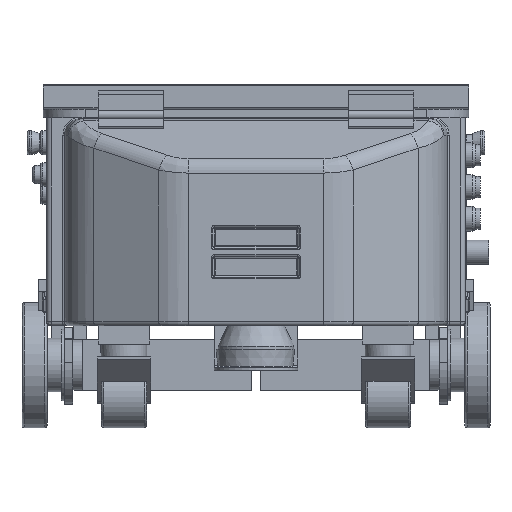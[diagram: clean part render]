
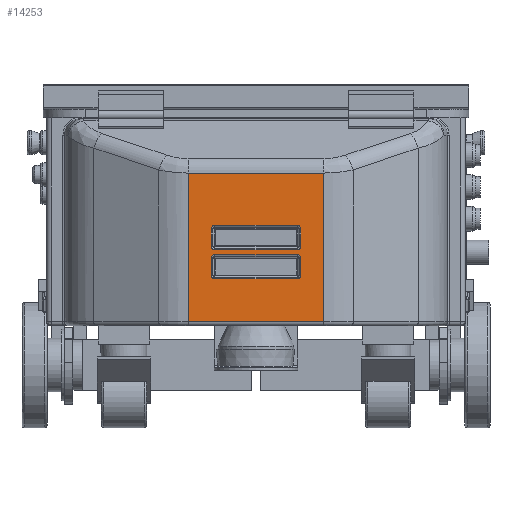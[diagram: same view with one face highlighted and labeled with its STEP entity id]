
A CAD part, front view. The second image highlights one B-rep face of the part: STEP entity #14253.
In plain terms, the highlighted planar face has unit normal (0, -1, 0).
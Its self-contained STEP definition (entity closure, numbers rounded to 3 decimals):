
#717=CIRCLE('',#15395,4.);
#729=CIRCLE('',#15410,4.);
#733=CIRCLE('',#15416,4.);
#740=CIRCLE('',#15425,4.);
#742=CIRCLE('',#15440,4.);
#743=CIRCLE('',#15441,4.);
#744=CIRCLE('',#15442,4.);
#745=CIRCLE('',#15443,4.);
#1070=FACE_BOUND('',#2782,.T.);
#1071=FACE_BOUND('',#2783,.T.);
#1822=FACE_OUTER_BOUND('',#2781,.T.);
#2781=EDGE_LOOP('',(#11610,#11611,#11612,#11613));
#2782=EDGE_LOOP('',(#11614,#11615,#11616,#11617,#11618,#11619,#11620,#11621));
#2783=EDGE_LOOP('',(#11622,#11623,#11624,#11625,#11626,#11627,#11628,#11629));
#4076=LINE('',#23343,#5337);
#4078=LINE('',#23371,#5339);
#4080=LINE('',#23374,#5341);
#4088=LINE('',#23386,#5349);
#4100=LINE('',#23407,#5361);
#4101=LINE('',#23409,#5362);
#4102=LINE('',#23411,#5363);
#4103=LINE('',#23412,#5364);
#4104=LINE('',#23417,#5365);
#4105=LINE('',#23421,#5366);
#4106=LINE('',#23425,#5367);
#4107=LINE('',#23428,#5368);
#5337=VECTOR('',#18749,10.);
#5339=VECTOR('',#18781,10.);
#5341=VECTOR('',#18785,10.);
#5349=VECTOR('',#18801,10.);
#5361=VECTOR('',#18827,10.);
#5362=VECTOR('',#18828,10.);
#5363=VECTOR('',#18829,10.);
#5364=VECTOR('',#18830,10.);
#5365=VECTOR('',#18833,10.);
#5366=VECTOR('',#18836,10.);
#5367=VECTOR('',#18839,10.);
#5368=VECTOR('',#18842,10.);
#6568=VERTEX_POINT('',#23311);
#6569=VERTEX_POINT('',#23312);
#6580=VERTEX_POINT('',#23337);
#6581=VERTEX_POINT('',#23339);
#6584=VERTEX_POINT('',#23349);
#6585=VERTEX_POINT('',#23351);
#6591=VERTEX_POINT('',#23365);
#6592=VERTEX_POINT('',#23367);
#6593=VERTEX_POINT('',#23405);
#6594=VERTEX_POINT('',#23406);
#6595=VERTEX_POINT('',#23408);
#6596=VERTEX_POINT('',#23410);
#6597=VERTEX_POINT('',#23413);
#6598=VERTEX_POINT('',#23414);
#6599=VERTEX_POINT('',#23416);
#6600=VERTEX_POINT('',#23418);
#6601=VERTEX_POINT('',#23420);
#6602=VERTEX_POINT('',#23422);
#6603=VERTEX_POINT('',#23424);
#6604=VERTEX_POINT('',#23426);
#8286=EDGE_CURVE('',#6568,#6569,#717,.T.);
#8298=EDGE_CURVE('',#6580,#6581,#729,.T.);
#8300=EDGE_CURVE('',#6569,#6580,#4076,.T.);
#8304=EDGE_CURVE('',#6584,#6585,#733,.T.);
#8311=EDGE_CURVE('',#6591,#6592,#740,.T.);
#8313=EDGE_CURVE('',#6581,#6591,#4078,.T.);
#8315=EDGE_CURVE('',#6592,#6584,#4080,.T.);
#8323=EDGE_CURVE('',#6585,#6568,#4088,.T.);
#8335=EDGE_CURVE('',#6593,#6594,#4100,.T.);
#8336=EDGE_CURVE('',#6595,#6593,#4101,.T.);
#8337=EDGE_CURVE('',#6596,#6595,#4102,.T.);
#8338=EDGE_CURVE('',#6594,#6596,#4103,.T.);
#8339=EDGE_CURVE('',#6597,#6598,#742,.T.);
#8340=EDGE_CURVE('',#6599,#6597,#4104,.T.);
#8341=EDGE_CURVE('',#6600,#6599,#743,.T.);
#8342=EDGE_CURVE('',#6601,#6600,#4105,.T.);
#8343=EDGE_CURVE('',#6602,#6601,#744,.T.);
#8344=EDGE_CURVE('',#6603,#6602,#4106,.T.);
#8345=EDGE_CURVE('',#6604,#6603,#745,.T.);
#8346=EDGE_CURVE('',#6598,#6604,#4107,.T.);
#11610=ORIENTED_EDGE('',*,*,#8335,.F.);
#11611=ORIENTED_EDGE('',*,*,#8336,.F.);
#11612=ORIENTED_EDGE('',*,*,#8337,.F.);
#11613=ORIENTED_EDGE('',*,*,#8338,.F.);
#11614=ORIENTED_EDGE('',*,*,#8339,.F.);
#11615=ORIENTED_EDGE('',*,*,#8340,.F.);
#11616=ORIENTED_EDGE('',*,*,#8341,.F.);
#11617=ORIENTED_EDGE('',*,*,#8342,.F.);
#11618=ORIENTED_EDGE('',*,*,#8343,.F.);
#11619=ORIENTED_EDGE('',*,*,#8344,.F.);
#11620=ORIENTED_EDGE('',*,*,#8345,.F.);
#11621=ORIENTED_EDGE('',*,*,#8346,.F.);
#11622=ORIENTED_EDGE('',*,*,#8311,.F.);
#11623=ORIENTED_EDGE('',*,*,#8313,.F.);
#11624=ORIENTED_EDGE('',*,*,#8298,.F.);
#11625=ORIENTED_EDGE('',*,*,#8300,.F.);
#11626=ORIENTED_EDGE('',*,*,#8286,.F.);
#11627=ORIENTED_EDGE('',*,*,#8323,.F.);
#11628=ORIENTED_EDGE('',*,*,#8304,.F.);
#11629=ORIENTED_EDGE('',*,*,#8315,.F.);
#13048=PLANE('',#15439);
#14253=ADVANCED_FACE('',(#1822,#1070,#1071),#13048,.T.);
#15395=AXIS2_PLACEMENT_3D('',#23313,#18713,#18714);
#15410=AXIS2_PLACEMENT_3D('',#23340,#18743,#18744);
#15416=AXIS2_PLACEMENT_3D('',#23352,#18757,#18758);
#15425=AXIS2_PLACEMENT_3D('',#23368,#18775,#18776);
#15439=AXIS2_PLACEMENT_3D('',#23404,#18825,#18826);
#15440=AXIS2_PLACEMENT_3D('',#23415,#18831,#18832);
#15441=AXIS2_PLACEMENT_3D('',#23419,#18834,#18835);
#15442=AXIS2_PLACEMENT_3D('',#23423,#18837,#18838);
#15443=AXIS2_PLACEMENT_3D('',#23427,#18840,#18841);
#18713=DIRECTION('center_axis',(0.,-1.,0.));
#18714=DIRECTION('ref_axis',(0.707,0.,-0.707));
#18743=DIRECTION('center_axis',(0.,-1.,0.));
#18744=DIRECTION('ref_axis',(0.707,0.,0.707));
#18749=DIRECTION('',(0.,0.,1.));
#18757=DIRECTION('center_axis',(0.,-1.,0.));
#18758=DIRECTION('ref_axis',(-0.707,0.,-0.707));
#18775=DIRECTION('center_axis',(0.,-1.,0.));
#18776=DIRECTION('ref_axis',(-0.707,0.,0.707));
#18781=DIRECTION('',(-1.,0.,0.));
#18785=DIRECTION('',(0.,0.,-1.));
#18801=DIRECTION('',(1.,0.,0.));
#18825=DIRECTION('center_axis',(0.,-1.,0.));
#18826=DIRECTION('ref_axis',(0.,0.,-1.));
#18827=DIRECTION('',(-1.,0.,0.));
#18828=DIRECTION('',(0.,0.,-1.));
#18829=DIRECTION('',(1.,0.,0.));
#18830=DIRECTION('',(0.,0.,1.));
#18831=DIRECTION('center_axis',(0.,-1.,0.));
#18832=DIRECTION('ref_axis',(-0.707,0.,0.707));
#18833=DIRECTION('',(-1.,0.,0.));
#18834=DIRECTION('center_axis',(0.,-1.,0.));
#18835=DIRECTION('ref_axis',(0.707,0.,0.707));
#18836=DIRECTION('',(0.,0.,1.));
#18837=DIRECTION('center_axis',(0.,-1.,0.));
#18838=DIRECTION('ref_axis',(0.707,0.,-0.707));
#18839=DIRECTION('',(1.,0.,0.));
#18840=DIRECTION('center_axis',(0.,-1.,0.));
#18841=DIRECTION('ref_axis',(-0.707,0.,-0.707));
#18842=DIRECTION('',(0.,0.,-1.));
#23311=CARTESIAN_POINT('',(49.5,-295.,178.));
#23312=CARTESIAN_POINT('',(53.5,-295.,182.));
#23313=CARTESIAN_POINT('Origin',(49.5,-295.,182.));
#23337=CARTESIAN_POINT('',(53.5,-295.,203.));
#23339=CARTESIAN_POINT('',(49.5,-295.,207.));
#23340=CARTESIAN_POINT('Origin',(49.5,-295.,203.));
#23343=CARTESIAN_POINT('',(53.5,-295.,90.));
#23349=CARTESIAN_POINT('',(-53.5,-295.,182.));
#23351=CARTESIAN_POINT('',(-49.5,-295.,178.));
#23352=CARTESIAN_POINT('Origin',(-49.5,-295.,182.));
#23365=CARTESIAN_POINT('',(-49.5,-295.,207.));
#23367=CARTESIAN_POINT('',(-53.5,-295.,203.));
#23368=CARTESIAN_POINT('Origin',(-49.5,-295.,203.));
#23371=CARTESIAN_POINT('',(75.75,-295.,207.));
#23374=CARTESIAN_POINT('',(-53.5,-295.,102.5));
#23386=CARTESIAN_POINT('',(24.25,-295.,178.));
#23404=CARTESIAN_POINT('Origin',(100.,-295.,0.));
#23405=CARTESIAN_POINT('',(81.244,-295.,127.));
#23406=CARTESIAN_POINT('',(-81.244,-295.,127.));
#23407=CARTESIAN_POINT('',(50.,-295.,127.));
#23408=CARTESIAN_POINT('',(81.244,-295.,304.759));
#23409=CARTESIAN_POINT('',(81.244,-295.,0.));
#23410=CARTESIAN_POINT('',(-81.244,-295.,304.759));
#23411=CARTESIAN_POINT('',(50.,-295.,304.759));
#23412=CARTESIAN_POINT('',(-81.244,-295.,0.));
#23413=CARTESIAN_POINT('',(-49.5,-295.,242.));
#23414=CARTESIAN_POINT('',(-53.5,-295.,238.));
#23415=CARTESIAN_POINT('Origin',(-49.5,-295.,238.));
#23416=CARTESIAN_POINT('',(49.5,-295.,242.));
#23417=CARTESIAN_POINT('',(75.75,-295.,242.));
#23418=CARTESIAN_POINT('',(53.5,-295.,238.));
#23419=CARTESIAN_POINT('Origin',(49.5,-295.,238.));
#23420=CARTESIAN_POINT('',(53.5,-295.,217.));
#23421=CARTESIAN_POINT('',(53.5,-295.,107.5));
#23422=CARTESIAN_POINT('',(49.5,-295.,213.));
#23423=CARTESIAN_POINT('Origin',(49.5,-295.,217.));
#23424=CARTESIAN_POINT('',(-49.5,-295.,213.));
#23425=CARTESIAN_POINT('',(24.25,-295.,213.));
#23426=CARTESIAN_POINT('',(-53.5,-295.,217.));
#23427=CARTESIAN_POINT('Origin',(-49.5,-295.,217.));
#23428=CARTESIAN_POINT('',(-53.5,-295.,120.));
